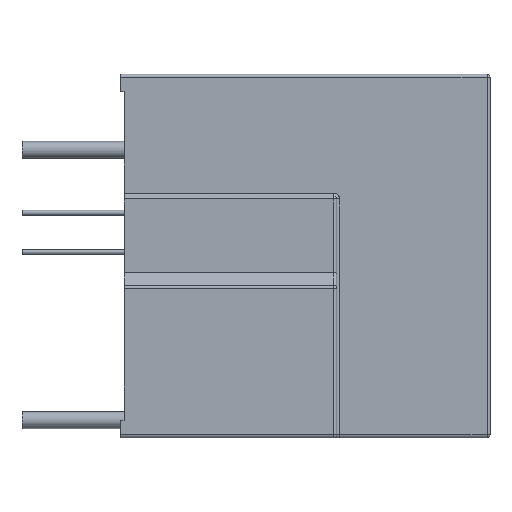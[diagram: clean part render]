
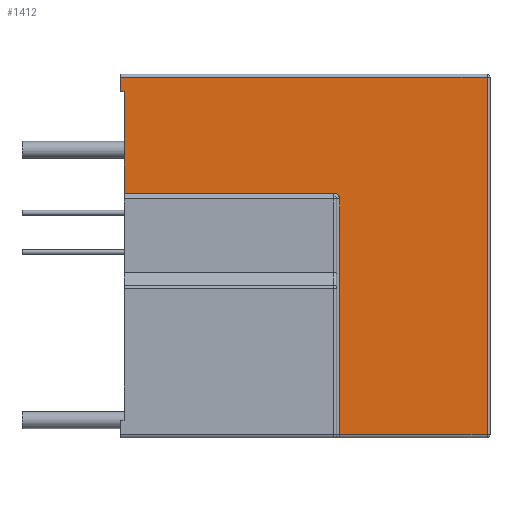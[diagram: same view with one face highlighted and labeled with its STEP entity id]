
A CAD part, left-side view. The second image highlights one B-rep face of the part: STEP entity #1412.
In plain terms, the highlighted planar face has unit normal (-1, 0, 0).
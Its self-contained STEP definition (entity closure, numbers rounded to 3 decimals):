
#140=DIRECTION('',(0.,0.,1.));
#141=VECTOR('',#140,1.5);
#142=CARTESIAN_POINT('',(-7.8,37.6,-1.8));
#143=LINE('',#142,#141);
#208=DIRECTION('',(0.,0.,1.));
#209=VECTOR('',#208,10.3);
#210=CARTESIAN_POINT('',(-7.8,37.2,-12.1));
#211=LINE('',#210,#209);
#390=DIRECTION('',(0.,1.,0.));
#391=VECTOR('',#390,21.3);
#392=CARTESIAN_POINT('',(-7.8,15.9,-12.1));
#393=LINE('',#392,#391);
#394=DIRECTION('',(0.,1.,0.));
#395=VECTOR('',#394,0.4);
#396=CARTESIAN_POINT('',(-7.8,37.2,-1.8));
#397=LINE('',#396,#395);
#398=DIRECTION('',(0.,1.,0.));
#399=VECTOR('',#398,37.3);
#400=CARTESIAN_POINT('',(-7.8,0.3,-0.3));
#401=LINE('',#400,#399);
#402=DIRECTION('',(0.,0.,1.));
#403=VECTOR('',#402,36.4);
#404=CARTESIAN_POINT('',(-7.8,0.3,-36.7));
#405=LINE('',#404,#403);
#406=DIRECTION('',(0.,1.,0.));
#407=VECTOR('',#406,15.);
#408=CARTESIAN_POINT('',(-7.8,0.3,-36.7));
#409=LINE('',#408,#407);
#410=DIRECTION('',(0.,0.,1.));
#411=VECTOR('',#410,24.);
#412=CARTESIAN_POINT('',(-7.8,15.3,-36.7));
#413=LINE('',#412,#411);
#414=CARTESIAN_POINT('',(-7.8,15.9,-12.7));
#415=DIRECTION('',(1.,0.,0.));
#416=DIRECTION('',(0.,0.,1.));
#417=AXIS2_PLACEMENT_3D('',#414,#415,#416);
#783=CARTESIAN_POINT('',(-7.8,37.6,-1.8));
#784=VERTEX_POINT('',#783);
#811=CARTESIAN_POINT('',(-7.8,37.2,-1.8));
#812=VERTEX_POINT('',#811);
#871=CARTESIAN_POINT('',(-7.8,15.9,-12.1));
#872=CARTESIAN_POINT('',(-7.8,37.2,-12.1));
#873=VERTEX_POINT('',#871);
#874=VERTEX_POINT('',#872);
#923=CARTESIAN_POINT('',(-7.8,37.6,-0.3));
#925=VERTEX_POINT('',#923);
#927=CARTESIAN_POINT('',(-7.8,0.3,-0.3));
#928=VERTEX_POINT('',#927);
#929=CARTESIAN_POINT('',(-7.8,0.3,-36.7));
#930=VERTEX_POINT('',#929);
#931=CARTESIAN_POINT('',(-7.8,15.3,-36.7));
#932=VERTEX_POINT('',#931);
#951=CARTESIAN_POINT('',(-7.8,15.3,-12.7));
#952=VERTEX_POINT('',#951);
#1389=CARTESIAN_POINT('',(-7.8,0.,-12.4));
#1390=DIRECTION('',(-1.,0.,0.));
#1391=DIRECTION('',(0.,0.,1.));
#1392=AXIS2_PLACEMENT_3D('',#1389,#1390,#1391);
#1393=PLANE('',#1392);
#1395=ORIENTED_EDGE('',*,*,#1394,.T.);
#1396=ORIENTED_EDGE('',*,*,#1156,.T.);
#1398=ORIENTED_EDGE('',*,*,#1397,.T.);
#1399=ORIENTED_EDGE('',*,*,#1122,.T.);
#1401=ORIENTED_EDGE('',*,*,#1400,.F.);
#1403=ORIENTED_EDGE('',*,*,#1402,.F.);
#1405=ORIENTED_EDGE('',*,*,#1404,.T.);
#1407=ORIENTED_EDGE('',*,*,#1406,.T.);
#1409=ORIENTED_EDGE('',*,*,#1408,.F.);
#1410=EDGE_LOOP('',(#1395,#1396,#1398,#1399,#1401,#1403,#1405,#1407,#1409));
#1411=FACE_OUTER_BOUND('',#1410,.F.);
#1412=ADVANCED_FACE('',(#1411),#1393,.T.);
#418=CIRCLE('',#417,0.6);
#1122=EDGE_CURVE('',#784,#925,#143,.T.);
#1156=EDGE_CURVE('',#874,#812,#211,.T.);
#1394=EDGE_CURVE('',#873,#874,#393,.T.);
#1397=EDGE_CURVE('',#812,#784,#397,.T.);
#1400=EDGE_CURVE('',#928,#925,#401,.T.);
#1402=EDGE_CURVE('',#930,#928,#405,.T.);
#1404=EDGE_CURVE('',#930,#932,#409,.T.);
#1406=EDGE_CURVE('',#932,#952,#413,.T.);
#1408=EDGE_CURVE('',#873,#952,#418,.T.);
